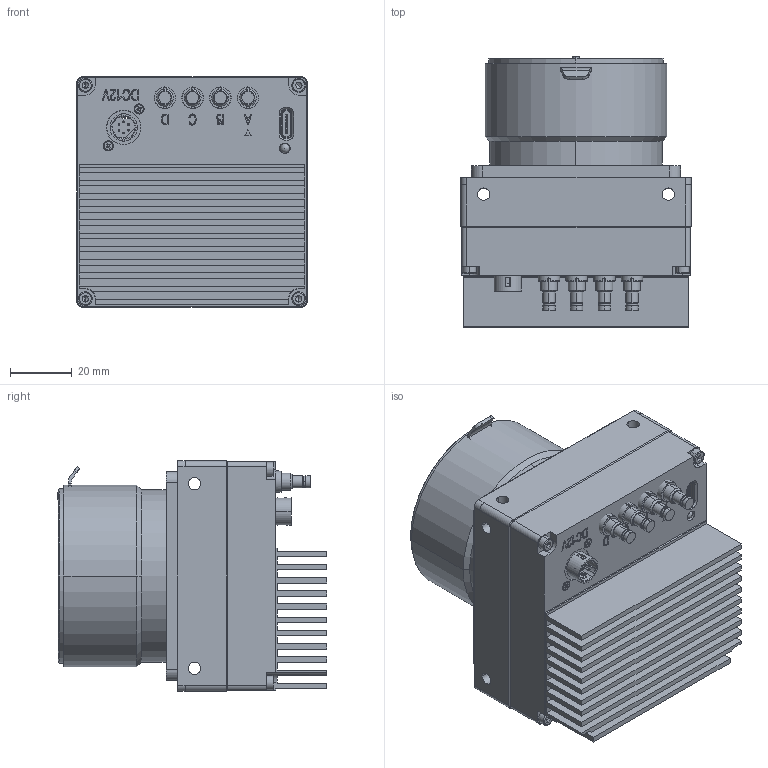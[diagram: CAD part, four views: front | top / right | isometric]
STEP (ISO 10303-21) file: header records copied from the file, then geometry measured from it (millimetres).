
FILE_DESCRIPTION (( 'STEP AP203' ), '1' );
FILE_NAME ('TS25MCXP6.STEP', '2022-04-12T09:01:59', ( '微软用户' ), ( '微软中国' ), 'SwSTEP 2.0', 'SolidWorks 2017', '' );
FILE_SCHEMA (( 'CONFIG_CONTROL_DESIGN' ));
Length unit declared in the file: millimetre
Products named in the file (1): TS25MCXP6
Bounding box: 75 x 87.73 x 75 mm (x, y, z)
Surface area: 66179.8 mm2 (no closed solid volume)
Topology: 0 solids, 71 shells, 657 faces, 2413 edges, 1782 vertices
Faces by surface type: plane 338, cylinder 205, cone 62, bspline 29, torus 16, sphere 7
Entity records: 27243 total; most frequent: CARTESIAN_POINT 6932, DIRECTION 4276, ORIENTED_EDGE 3678, EDGE_CURVE 2382, VERTEX_POINT 1774, VECTOR 1476, LINE 1476, AXIS2_PLACEMENT_3D 1400
